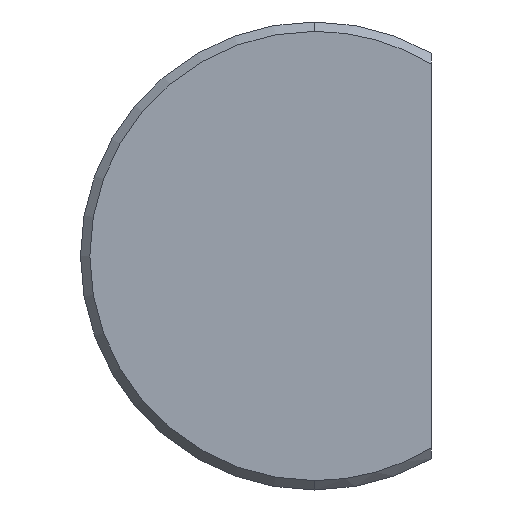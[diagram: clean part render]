
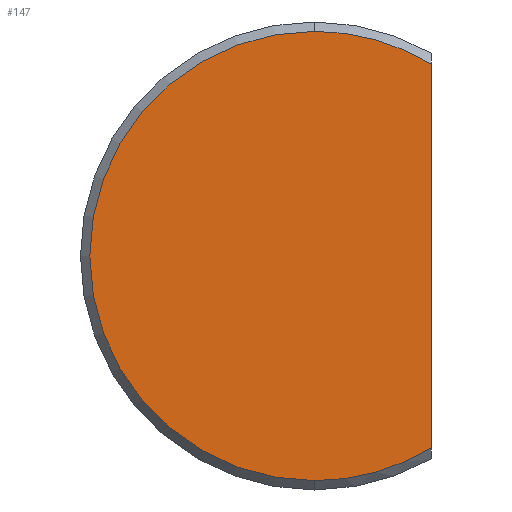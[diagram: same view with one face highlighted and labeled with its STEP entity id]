
A CAD part, front view. The second image highlights one B-rep face of the part: STEP entity #147.
In plain terms, the highlighted planar face has unit normal (0, -1, 0).
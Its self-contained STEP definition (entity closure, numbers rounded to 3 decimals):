
#5 = CIRCLE ( 'NONE', #179, 4.8 ) ;
#15 = EDGE_CURVE ( 'NONE', #347, #118, #5, .T. ) ;
#21 = ORIENTED_EDGE ( 'NONE', *, *, #326, .T. ) ;
#33 = AXIS2_PLACEMENT_3D ( 'NONE', #219, #586, #315 ) ;
#59 = AXIS2_PLACEMENT_3D ( 'NONE', #233, #464, #554 ) ;
#61 = DIRECTION ( 'NONE',  ( 0., -1., 0. ) ) ;
#70 = PLANE ( 'NONE',  #419 ) ;
#99 = CARTESIAN_POINT ( 'NONE',  ( 2.5, 0., -4.33 ) ) ;
#102 = EDGE_LOOP ( 'NONE', ( #21, #113, #110, #300 ) ) ;
#110 = ORIENTED_EDGE ( 'NONE', *, *, #15, .T. ) ;
#113 = ORIENTED_EDGE ( 'NONE', *, *, #251, .T. ) ;
#118 = VERTEX_POINT ( 'NONE', #546 ) ;
#131 = CIRCLE ( 'NONE', #59, 4.8 ) ;
#147 = ADVANCED_FACE ( 'NONE', ( #433 ), #70, .T. ) ;
#179 = AXIS2_PLACEMENT_3D ( 'NONE', #353, #61, #537 ) ;
#213 = VERTEX_POINT ( 'NONE', #214 ) ;
#214 = CARTESIAN_POINT ( 'NONE',  ( 0., 0., 4.8 ) ) ;
#219 = CARTESIAN_POINT ( 'NONE',  ( 0., 0., 0. ) ) ;
#233 = CARTESIAN_POINT ( 'NONE',  ( 0., 0., 0. ) ) ;
#234 = CARTESIAN_POINT ( 'NONE',  ( 0., 0., -4.8 ) ) ;
#251 = EDGE_CURVE ( 'NONE', #213, #347, #272, .T. ) ;
#272 = CIRCLE ( 'NONE', #33, 4.8 ) ;
#289 = DIRECTION ( 'NONE',  ( 0., 0., 1. ) ) ;
#294 = VECTOR ( 'NONE', #289, 1000. ) ;
#300 = ORIENTED_EDGE ( 'NONE', *, *, #556, .T. ) ;
#305 = VERTEX_POINT ( 'NONE', #371 ) ;
#315 = DIRECTION ( 'NONE',  ( 0., 0., -1. ) ) ;
#326 = EDGE_CURVE ( 'NONE', #305, #213, #131, .T. ) ;
#347 = VERTEX_POINT ( 'NONE', #234 ) ;
#353 = CARTESIAN_POINT ( 'NONE',  ( 0., 0., 0. ) ) ;
#363 = DIRECTION ( 'NONE',  ( 0., -1., 0. ) ) ;
#371 = CARTESIAN_POINT ( 'NONE',  ( 2.5, 0., 4.098 ) ) ;
#419 = AXIS2_PLACEMENT_3D ( 'NONE', #574, #363, #580 ) ;
#424 = LINE ( 'NONE', #99, #294 ) ;
#433 = FACE_OUTER_BOUND ( 'NONE', #102, .T. ) ;
#464 = DIRECTION ( 'NONE',  ( 0., -1., 0. ) ) ;
#537 = DIRECTION ( 'NONE',  ( 0., 0., -1. ) ) ;
#546 = CARTESIAN_POINT ( 'NONE',  ( 2.5, 0., -4.098 ) ) ;
#554 = DIRECTION ( 'NONE',  ( 0., 0., -1. ) ) ;
#556 = EDGE_CURVE ( 'NONE', #118, #305, #424, .T. ) ;
#574 = CARTESIAN_POINT ( 'NONE',  ( 0., 0., 0. ) ) ;
#580 = DIRECTION ( 'NONE',  ( 0., 0., -1. ) ) ;
#586 = DIRECTION ( 'NONE',  ( 0., -1., 0. ) ) ;
